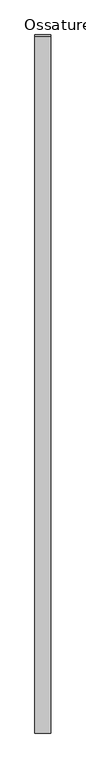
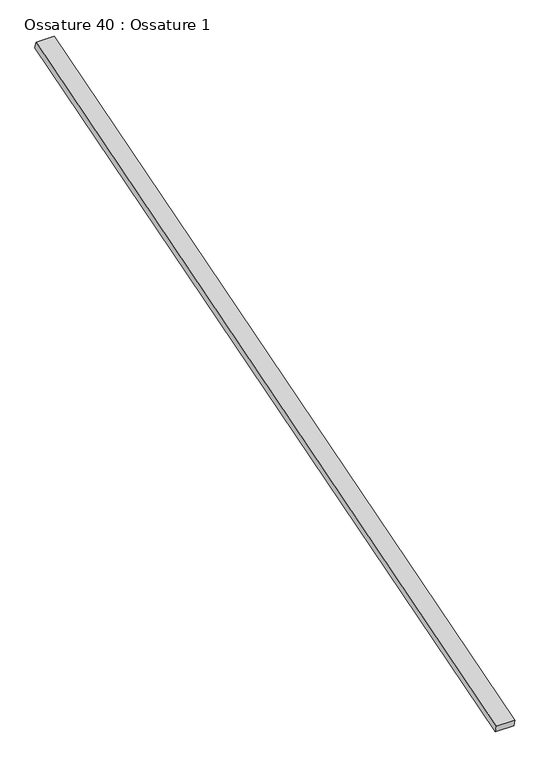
"""IFC4 building model written with IfcOpenShell, lengths in millimetres: beam geometry, Ossature 40 : Ossature 1."""

from ifc_helpers import new_model, si_unit, frame, origin, place, context, project, spatial, polyline, outline, extrude, source, transform, mapped, element, save


def ossature_40_ossature_1_bc7e1fae(model_context):
    return source(origin(), model_context, "Body", "SweptSolid", [
        extrude(outline(polyline([(0.0, 0.0), (0.0, -4543.0299679), (-100.0, -4543.0299679), (-100.0, 0.0), (0.0, 0.0)])), frame((9827.6466393, -833.3913565, 8153.6336115), z_axis=(0.0, -0.28734788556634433, 0.9578262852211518), x_axis=(-1.0, 0.0, 0.0)), (0.0, 0.0, 1.0), 40.0),
    ])


if __name__ == "__main__":
    model = new_model("IFC4")
    model_context = context("Model", 3, world=origin())
    ifc_project = project(units=[si_unit("LENGTHUNIT", "METRE", prefix="MILLI")], contexts=[model_context])
    site = spatial("IfcSite", under=ifc_project)
    building = spatial("IfcBuilding", under=site)
    placement = place(None, origin())
    ossature_40_ossature_1_shape = ossature_40_ossature_1_bc7e1fae(model_context)
    element("IfcBeam", 1, ObjectType="Ossature 40 : Ossature 1", at=placement, inside=building, context=model_context, shape_type="MappedRepresentation", body=[
        mapped(ossature_40_ossature_1_shape, transform((0.0, 0.0, 0.0), x_axis=(1.0, 0.0, 0.0), y_axis=(0.0, 1.0, 0.0), z_axis=(0.0, 0.0, 1.0))),
    ])
    save(model, "model.ifc")
